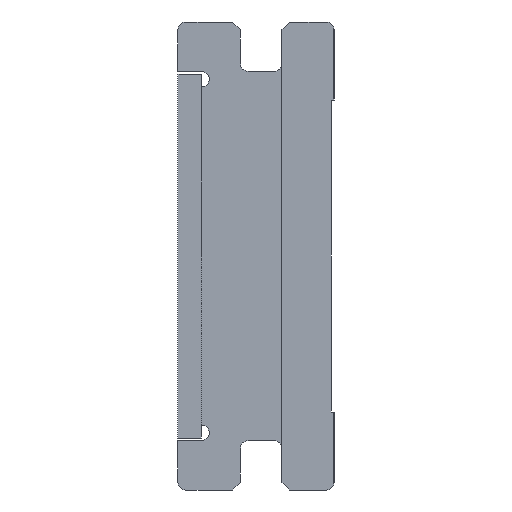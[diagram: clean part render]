
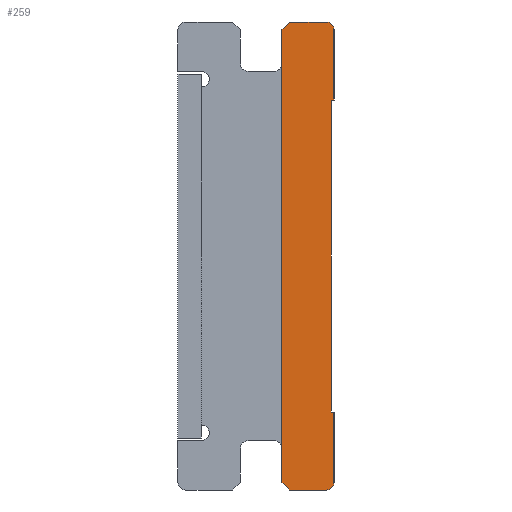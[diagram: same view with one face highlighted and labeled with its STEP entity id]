
A CAD part, left-side view. The second image highlights one B-rep face of the part: STEP entity #259.
In plain terms, the highlighted planar face has unit normal (-1, 0, 0).
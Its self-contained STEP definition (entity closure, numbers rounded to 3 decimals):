
#1 = EDGE_CURVE ( 'NONE', #267, #1179, #1565, .T. ) ;
#5 = CARTESIAN_POINT ( 'NONE',  ( 0., 0., -0.3 ) ) ;
#8 = LINE ( 'NONE', #1929, #92 ) ;
#14 = EDGE_CURVE ( 'NONE', #102, #267, #1587, .T. ) ;
#16 = DIRECTION ( 'NONE',  ( 1., 0., 0. ) ) ;
#18 = EDGE_CURVE ( 'NONE', #1192, #1651, #1187, .T. ) ;
#92 = VECTOR ( 'NONE', #984, 1000. ) ;
#102 = VERTEX_POINT ( 'NONE', #2075 ) ;
#204 = EDGE_CURVE ( 'NONE', #1723, #2014, #1597, .T. ) ;
#246 = DIRECTION ( 'NONE',  ( 0., -1., 0. ) ) ;
#259 = ADVANCED_FACE ( 'NONE', ( #1774 ), #1422, .F. ) ;
#267 = VERTEX_POINT ( 'NONE', #439 ) ;
#353 = VERTEX_POINT ( 'NONE', #859 ) ;
#439 = CARTESIAN_POINT ( 'NONE',  ( 0., 2., -0.3 ) ) ;
#440 = VECTOR ( 'NONE', #1365, 1000. ) ;
#450 = DIRECTION ( 'NONE',  ( 1., 0., 0. ) ) ;
#460 = ORIENTED_EDGE ( 'NONE', *, *, #699, .F. ) ;
#505 = VECTOR ( 'NONE', #1672, 1000. ) ;
#510 = CARTESIAN_POINT ( 'NONE',  ( 0., 1.7, -18. ) ) ;
#517 = VECTOR ( 'NONE', #1543, 1000. ) ;
#530 = LINE ( 'NONE', #2070, #505 ) ;
#535 = CARTESIAN_POINT ( 'NONE',  ( 0., 0.3, 0. ) ) ;
#603 = DIRECTION ( 'NONE',  ( 0., 0., 1. ) ) ;
#640 = EDGE_CURVE ( 'NONE', #1179, #353, #721, .T. ) ;
#648 = DIRECTION ( 'NONE',  ( 0., 1., 0. ) ) ;
#681 = CARTESIAN_POINT ( 'NONE',  ( 0., 0., -3. ) ) ;
#699 = EDGE_CURVE ( 'NONE', #2387, #1876, #8, .T. ) ;
#721 = LINE ( 'NONE', #535, #1492 ) ;
#783 = LINE ( 'NONE', #806, #517 ) ;
#785 = CARTESIAN_POINT ( 'NONE',  ( 0., 0.3, -17.7 ) ) ;
#794 = DIRECTION ( 'NONE',  ( 1., 0., 0. ) ) ;
#806 = CARTESIAN_POINT ( 'NONE',  ( 0., 1.7, -18. ) ) ;
#820 = DIRECTION ( 'NONE',  ( 0., 0., -1. ) ) ;
#846 = CARTESIAN_POINT ( 'NONE',  ( 0., 0.3, -18. ) ) ;
#859 = CARTESIAN_POINT ( 'NONE',  ( 0., 0.3, 0. ) ) ;
#890 = ORIENTED_EDGE ( 'NONE', *, *, #2068, .F. ) ;
#949 = CARTESIAN_POINT ( 'NONE',  ( 0., 0., -15. ) ) ;
#979 = CARTESIAN_POINT ( 'NONE',  ( 0., 0., -3. ) ) ;
#984 = DIRECTION ( 'NONE',  ( 0., 0., -1. ) ) ;
#1007 = CARTESIAN_POINT ( 'NONE',  ( 0., 0.3, -0.3 ) ) ;
#1057 = CARTESIAN_POINT ( 'NONE',  ( 0., 0.3, -18. ) ) ;
#1095 = CARTESIAN_POINT ( 'NONE',  ( 0., 0.1, -3. ) ) ;
#1124 = CARTESIAN_POINT ( 'NONE',  ( 0., 0., -17.7 ) ) ;
#1152 = DIRECTION ( 'NONE',  ( 0., 1., 0. ) ) ;
#1179 = VERTEX_POINT ( 'NONE', #2139 ) ;
#1187 = LINE ( 'NONE', #1352, #1945 ) ;
#1192 = VERTEX_POINT ( 'NONE', #1792 ) ;
#1216 = AXIS2_PLACEMENT_3D ( 'NONE', #785, #16, #820 ) ;
#1235 = EDGE_CURVE ( 'NONE', #2174, #1192, #1273, .T. ) ;
#1254 = EDGE_CURVE ( 'NONE', #1651, #2032, #530, .T. ) ;
#1273 = LINE ( 'NONE', #1095, #1883 ) ;
#1352 = CARTESIAN_POINT ( 'NONE',  ( 0., 0., -15. ) ) ;
#1356 = EDGE_CURVE ( 'NONE', #2032, #1723, #1967, .T. ) ;
#1365 = DIRECTION ( 'NONE',  ( 0., 0., 1. ) ) ;
#1367 = LINE ( 'NONE', #979, #2040 ) ;
#1393 = ORIENTED_EDGE ( 'NONE', *, *, #204, .F. ) ;
#1394 = VECTOR ( 'NONE', #1743, 1000. ) ;
#1404 = EDGE_LOOP ( 'NONE', ( #1716, #2258, #1428, #1393, #2424, #1730, #1487, #1770, #2154, #460, #890, #2073 ) ) ;
#1422 = PLANE ( 'NONE',  #2454 ) ;
#1428 = ORIENTED_EDGE ( 'NONE', *, *, #2388, .F. ) ;
#1465 = DIRECTION ( 'NONE',  ( 0., 1., 0. ) ) ;
#1487 = ORIENTED_EDGE ( 'NONE', *, *, #18, .F. ) ;
#1491 = DIRECTION ( 'NONE',  ( 0., -1., 0. ) ) ;
#1492 = VECTOR ( 'NONE', #1491, 1000. ) ;
#1543 = DIRECTION ( 'NONE',  ( 0., 0.707, 0.707 ) ) ;
#1562 = AXIS2_PLACEMENT_3D ( 'NONE', #1007, #794, #603 ) ;
#1565 = LINE ( 'NONE', #2136, #1394 ) ;
#1587 = LINE ( 'NONE', #2355, #440 ) ;
#1597 = LINE ( 'NONE', #1057, #2112 ) ;
#1651 = VERTEX_POINT ( 'NONE', #949 ) ;
#1672 = DIRECTION ( 'NONE',  ( 0., 0., -1. ) ) ;
#1716 = ORIENTED_EDGE ( 'NONE', *, *, #1, .F. ) ;
#1723 = VERTEX_POINT ( 'NONE', #846 ) ;
#1730 = ORIENTED_EDGE ( 'NONE', *, *, #1254, .F. ) ;
#1743 = DIRECTION ( 'NONE',  ( 0., -0.707, 0.707 ) ) ;
#1770 = ORIENTED_EDGE ( 'NONE', *, *, #1235, .F. ) ;
#1774 = FACE_OUTER_BOUND ( 'NONE', #1404, .T. ) ;
#1792 = CARTESIAN_POINT ( 'NONE',  ( 0., 0.1, -15. ) ) ;
#1876 = VERTEX_POINT ( 'NONE', #681 ) ;
#1883 = VECTOR ( 'NONE', #2019, 1000. ) ;
#1901 = CARTESIAN_POINT ( 'NONE',  ( 0., 0.1, -3. ) ) ;
#1929 = CARTESIAN_POINT ( 'NONE',  ( 0., 0., -0.3 ) ) ;
#1945 = VECTOR ( 'NONE', #246, 1000. ) ;
#1967 = CIRCLE ( 'NONE', #1216, 0.3 ) ;
#2002 = CIRCLE ( 'NONE', #1562, 0.3 ) ;
#2014 = VERTEX_POINT ( 'NONE', #510 ) ;
#2019 = DIRECTION ( 'NONE',  ( 0., 0., -1. ) ) ;
#2032 = VERTEX_POINT ( 'NONE', #1124 ) ;
#2040 = VECTOR ( 'NONE', #1152, 1000. ) ;
#2068 = EDGE_CURVE ( 'NONE', #353, #2387, #2002, .T. ) ;
#2070 = CARTESIAN_POINT ( 'NONE',  ( 0., 0., -15. ) ) ;
#2073 = ORIENTED_EDGE ( 'NONE', *, *, #640, .F. ) ;
#2075 = CARTESIAN_POINT ( 'NONE',  ( 0., 2., -17.7 ) ) ;
#2092 = EDGE_CURVE ( 'NONE', #1876, #2174, #1367, .T. ) ;
#2112 = VECTOR ( 'NONE', #1465, 1000. ) ;
#2136 = CARTESIAN_POINT ( 'NONE',  ( 0., 1.7, 0. ) ) ;
#2139 = CARTESIAN_POINT ( 'NONE',  ( 0., 1.7, 0. ) ) ;
#2154 = ORIENTED_EDGE ( 'NONE', *, *, #2092, .F. ) ;
#2170 = CARTESIAN_POINT ( 'NONE',  ( 0., 5.1, -15.8 ) ) ;
#2174 = VERTEX_POINT ( 'NONE', #1901 ) ;
#2258 = ORIENTED_EDGE ( 'NONE', *, *, #14, .F. ) ;
#2355 = CARTESIAN_POINT ( 'NONE',  ( 0., 2., -17.7 ) ) ;
#2387 = VERTEX_POINT ( 'NONE', #5 ) ;
#2388 = EDGE_CURVE ( 'NONE', #2014, #102, #783, .T. ) ;
#2424 = ORIENTED_EDGE ( 'NONE', *, *, #1356, .F. ) ;
#2454 = AXIS2_PLACEMENT_3D ( 'NONE', #2170, #450, #648 ) ;
